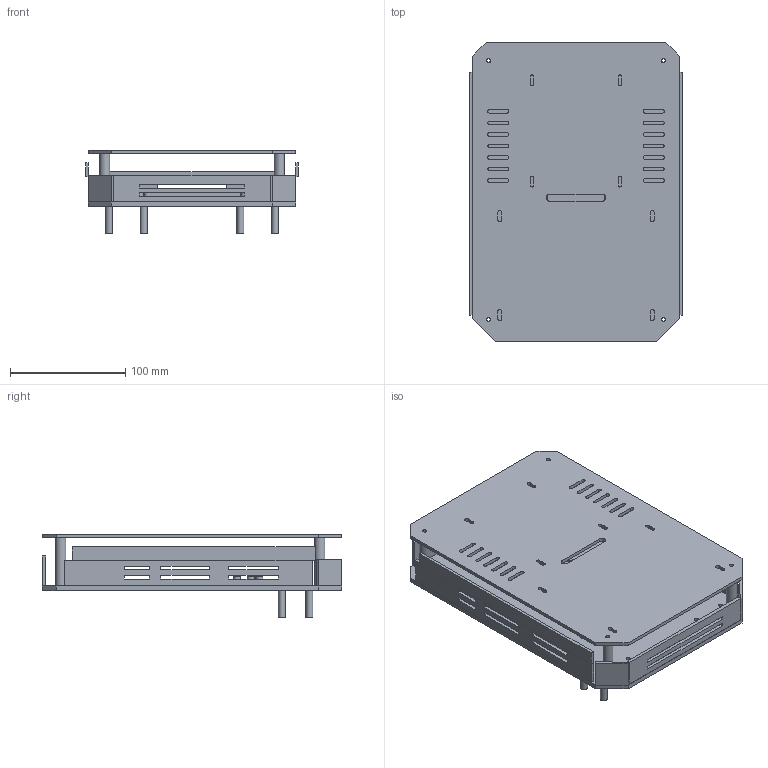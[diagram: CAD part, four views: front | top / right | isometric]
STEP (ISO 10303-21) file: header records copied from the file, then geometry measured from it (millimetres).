
FILE_DESCRIPTION(('FreeCAD Model'),'2;1');
FILE_NAME('Open CASCADE Shape Model','2026-10-15T22:53:11',('FreeCAD'),( 'FreeCAD'),'Open CASCADE STEP processor 7.8','FreeCAD','Unknown');
FILE_SCHEMA(('AUTOMOTIVE_DESIGN { 1 0 10303 214 1 1 1 1 }'));
Length unit declared in the file: millimetre
Products named in the file (1): Open CASCADE STEP translator 7.8 1
Bounding box: 185 x 260 x 72.78 mm (x, y, z)
Volume: 391513.8 mm3; surface area: 260528.1 mm2
Topology: 28 solids, 28 shells, 348 faces, 922 edges, 632 vertices
Faces by surface type: plane 236, cylinder 112
Full cylindrical faces by diameter (mm): 3.2 x6, 3.3 x12, 3.4 x30, 6 x14, 9 x4
Entity records: 11318 total; most frequent: CARTESIAN_POINT 2423, ORIENTED_EDGE 1844, DIRECTION 1688, EDGE_CURVE 922, LINE 646, VECTOR 646, VERTEX_POINT 632, FACE_BOUND 530
